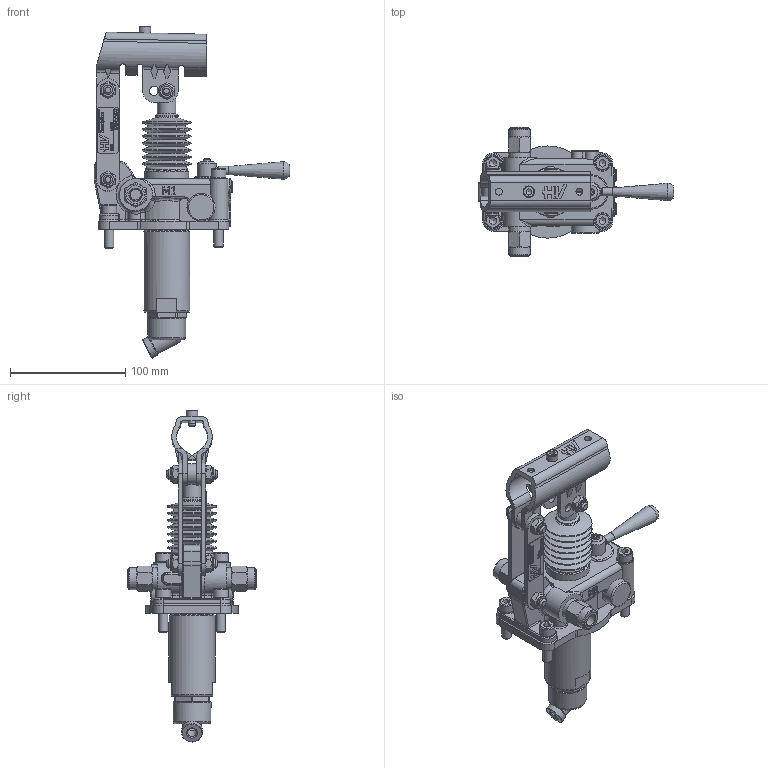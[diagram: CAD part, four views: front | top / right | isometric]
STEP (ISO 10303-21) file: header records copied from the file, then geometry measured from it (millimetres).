
FILE_DESCRIPTION((''),'2;1');
FILE_NAME('G:\HV_HYDRAULIC\AZIENDA_HV_HYDRAULIC\ARCHIVIO_DISEGNI\5_PRODOTTI_FINITI\1_POMPE_MANUALI\6062_PMDVB_45\6062.0103_PMDVB_45_cc-byB-s_(HV)\6062.0103.stp','2024-03-07T15:27:48',('christian.scardovi'),(''),'Autodesk Inventor 2013','Autodesk Inventor 2013','');
FILE_SCHEMA(('AUTOMOTIVE_DESIGN { 1 0 10303 214 1 1 1 1 }'));
Length unit declared in the file: millimetre
Products named in the file (1): 6062.0103
Bounding box: 170 x 112 x 288.31 mm (x, y, z)
Volume: 482223.6 mm3; surface area: 136597.4 mm2
Topology: 3 solids, 3 shells, 1681 faces, 4263 edges, 2701 vertices
Faces by surface type: plane 805, cylinder 371, cone 193, bspline 184, torus 115, sphere 13
Full cylindrical faces by diameter (mm): 1.2 x4, 3 x7, 4 x4, 4.917 x13, 5 x10, 6 x8, 6.5 x3, 6.917 x2, 7 x3, 8 x15, 9 x3, 9.2 x1, 10 x13, 10.376 x1, 10.5 x2, 10.917 x3, 11.05 x6, 11.445 x2, 12 x7, 13 x4, 13.2 x1, 14 x4, 14.95 x2, 15.5 x2, 15.9 x2, 16 x5, 18 x3, 19 x4, 20 x1, 21.6 x1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
Entity records: 52380 total; most frequent: CARTESIAN_POINT 13956, ORIENTED_EDGE 7552, DIRECTION 7080, EDGE_CURVE 3776, AXIS2_PLACEMENT_3D 2550, VERTEX_POINT 2546, EDGE_LOOP 2163, VECTOR 1980
